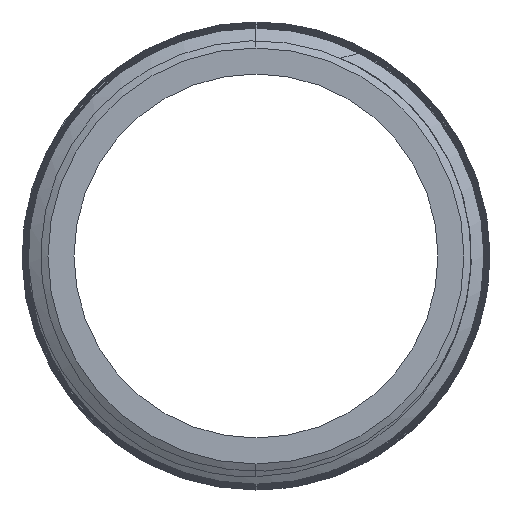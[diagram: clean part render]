
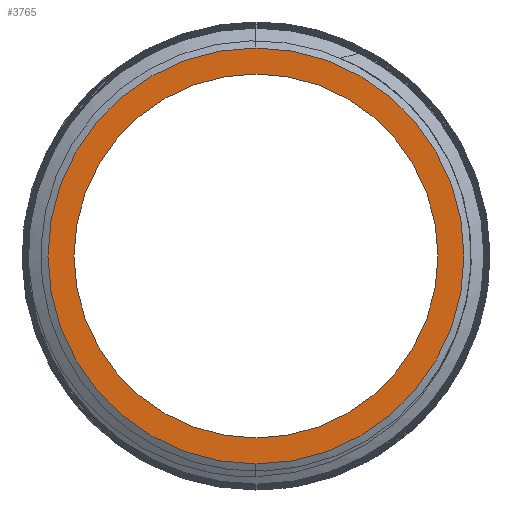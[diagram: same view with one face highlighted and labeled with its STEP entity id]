
A CAD part, left-side view. The second image highlights one B-rep face of the part: STEP entity #3765.
In plain terms, the highlighted planar face has unit normal (-1, 0, 0).
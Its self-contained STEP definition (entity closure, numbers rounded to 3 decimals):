
#115 = VERTEX_POINT ( 'NONE', #4964 ) ;
#278 = DIRECTION ( 'NONE',  ( 0., 0., 1. ) ) ;
#494 = AXIS2_PLACEMENT_3D ( 'NONE', #8331, #4226, #4933 ) ;
#870 = CIRCLE ( 'NONE', #1997, 6. ) ;
#1997 = AXIS2_PLACEMENT_3D ( 'NONE', #4204, #8225, #6892 ) ;
#2113 = VERTEX_POINT ( 'NONE', #5426 ) ;
#2134 = FACE_OUTER_BOUND ( 'NONE', #7056, .T. ) ;
#2463 = ORIENTED_EDGE ( 'NONE', *, *, #8061, .F. ) ;
#2530 = AXIS2_PLACEMENT_3D ( 'NONE', #6994, #7658, #278 ) ;
#2731 = ORIENTED_EDGE ( 'NONE', *, *, #4890, .F. ) ;
#2981 = CARTESIAN_POINT ( 'NONE',  ( -100., 0., 0. ) ) ;
#3216 = VERTEX_POINT ( 'NONE', #6176 ) ;
#3765 = ADVANCED_FACE ( 'NONE', ( #7429, #2134 ), #7518, .F. ) ;
#4000 = EDGE_LOOP ( 'NONE', ( #2463, #2731 ) ) ;
#4079 = CARTESIAN_POINT ( 'NONE',  ( -100., 5.25, 0. ) ) ;
#4204 = CARTESIAN_POINT ( 'NONE',  ( -100., 0., 0. ) ) ;
#4226 = DIRECTION ( 'NONE',  ( -1., 0., 0. ) ) ;
#4492 = VERTEX_POINT ( 'NONE', #7622 ) ;
#4584 = EDGE_CURVE ( 'NONE', #115, #3216, #7700, .T. ) ;
#4796 = CIRCLE ( 'NONE', #2530, 5.25 ) ;
#4890 = EDGE_CURVE ( 'NONE', #2113, #4492, #5026, .T. ) ;
#4933 = DIRECTION ( 'NONE',  ( 0., 0., 1. ) ) ;
#4964 = CARTESIAN_POINT ( 'NONE',  ( -100., 0., 6. ) ) ;
#5015 = DIRECTION ( 'NONE',  ( -1., 0., 0. ) ) ;
#5026 = CIRCLE ( 'NONE', #7274, 5.25 ) ;
#5426 = CARTESIAN_POINT ( 'NONE',  ( -100., 0., -5.25 ) ) ;
#6176 = CARTESIAN_POINT ( 'NONE',  ( -100., 0., -6. ) ) ;
#6186 = DIRECTION ( 'NONE',  ( 0., 0., -1. ) ) ;
#6533 = AXIS2_PLACEMENT_3D ( 'NONE', #4079, #6853, #6186 ) ;
#6769 = ORIENTED_EDGE ( 'NONE', *, *, #4584, .T. ) ;
#6853 = DIRECTION ( 'NONE',  ( 1., 0., 0. ) ) ;
#6892 = DIRECTION ( 'NONE',  ( 0., 0., 1. ) ) ;
#6904 = ORIENTED_EDGE ( 'NONE', *, *, #7540, .T. ) ;
#6994 = CARTESIAN_POINT ( 'NONE',  ( -100., 0., 0. ) ) ;
#7056 = EDGE_LOOP ( 'NONE', ( #6904, #6769 ) ) ;
#7274 = AXIS2_PLACEMENT_3D ( 'NONE', #2981, #5015, #7613 ) ;
#7429 = FACE_BOUND ( 'NONE', #4000, .T. ) ;
#7518 = PLANE ( 'NONE',  #6533 ) ;
#7540 = EDGE_CURVE ( 'NONE', #3216, #115, #870, .T. ) ;
#7613 = DIRECTION ( 'NONE',  ( 0., 0., 1. ) ) ;
#7622 = CARTESIAN_POINT ( 'NONE',  ( -100., 0., 5.25 ) ) ;
#7658 = DIRECTION ( 'NONE',  ( -1., 0., 0. ) ) ;
#7700 = CIRCLE ( 'NONE', #494, 6. ) ;
#8061 = EDGE_CURVE ( 'NONE', #4492, #2113, #4796, .T. ) ;
#8225 = DIRECTION ( 'NONE',  ( -1., 0., 0. ) ) ;
#8331 = CARTESIAN_POINT ( 'NONE',  ( -100., 0., 0. ) ) ;
